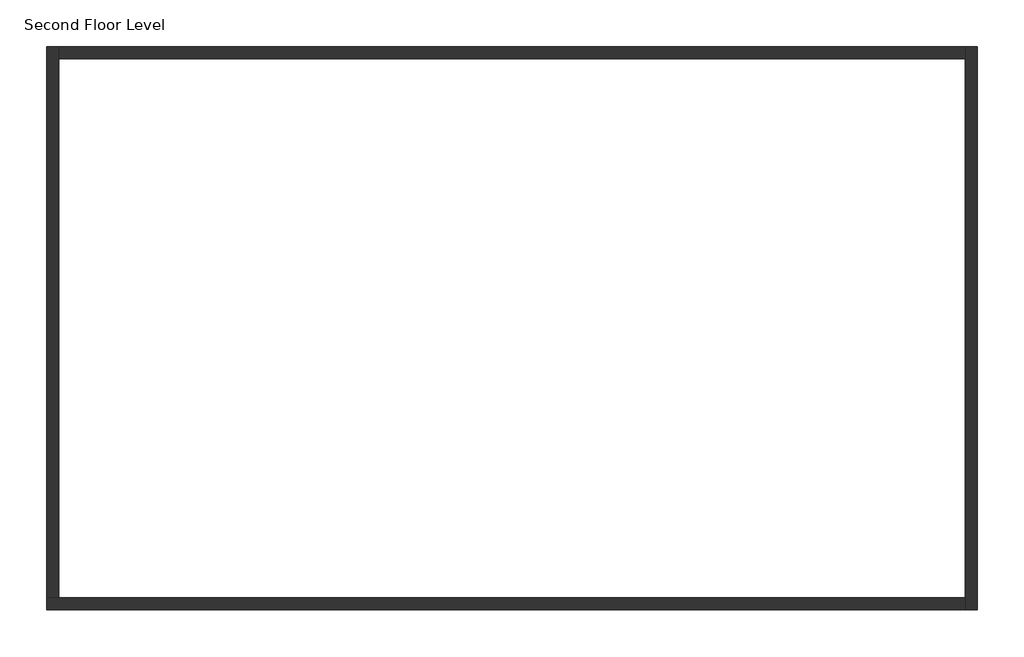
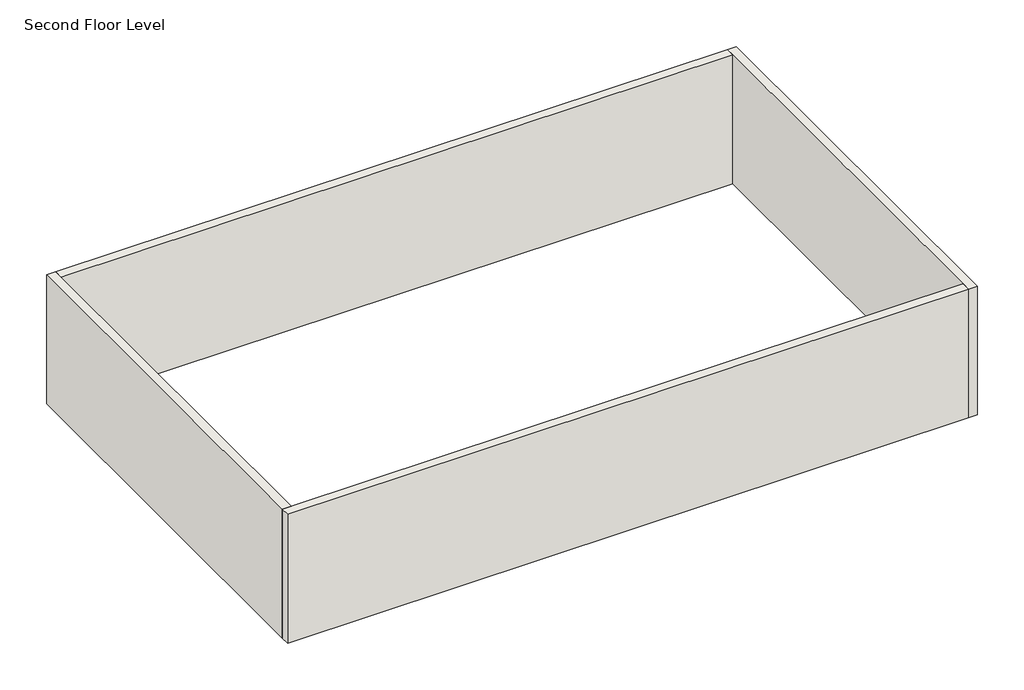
# One storey: 4 walls.
"""IFC4 building model written with IfcOpenShell, lengths in millimetres."""

from ifc_helpers import new_model, si_unit, frame, origin, place, context, project, spatial, polyline, outline, extrude, faceted_brep, element, save

model = new_model("IFC4")

# Units and contexts
model_context = context("Model", 3, world=origin())
ifc_project = project(units=[si_unit("LENGTHUNIT", "METRE", prefix="MILLI")], contexts=[model_context])

# Site, building, storey
site = spatial("IfcSite", under=ifc_project)
building = spatial("IfcBuilding", under=site)
storey = spatial("IfcBuildingStorey", under=building, Name="Second Floor Level", Elevation=3048.0)

# Walls
placement = place(None, origin())
element("IfcWall", 1, ObjectType="Generic - 8\"", at=placement, inside=storey, context=model_context, shape_type="Brep", body=[
    faceted_brep([(-11062.1324207, -4509.9593364, 3048.0), (4177.8675793, -4509.9593364, 3048.0), (4177.8675793, -4509.9593364, 6096.0), (-11062.1324207, -4509.9593364, 6096.0), (-11062.1324207, -4306.7593364, 3048.0), (-11062.1324207, -4306.7593364, 6096.0), (-10858.9324207, -4306.7593364, 6096.0), (4177.8675793, -4306.7593364, 6096.0), (4177.8675793, -4306.7593364, 3048.0), (-10858.9324207, -4306.7593364, 3048.0)], [[[0, 1, 2, 3]], [[4, 5, 6, 7, 8, 9]], [[1, 0, 4, 9, 8]], [[3, 2, 7, 6, 5]], [[0, 3, 5, 4]], [[2, 1, 8, 7]]]),
])
element("IfcWall", 2, ObjectType="Generic - 8\"", at=placement, inside=storey, context=model_context, shape_type="Brep", body=[
    faceted_brep([(-11062.1324207, 4837.2406636, 3048.0), (-11062.1324207, -4306.7593364, 3048.0), (-11062.1324207, -4306.7593364, 6096.0), (-11062.1324207, 4837.2406636, 6096.0), (-10858.9324207, 4837.2406636, 3048.0), (-10858.9324207, 4837.2406636, 6096.0), (-10858.9324207, 4634.0406636, 6096.0), (-10858.9324207, -4306.7593364, 6096.0), (-10858.9324207, -4306.7593364, 3048.0), (-10858.9324207, 4634.0406636, 3048.0)], [[[0, 1, 2, 3]], [[4, 5, 6, 7, 8, 9]], [[1, 0, 4, 9, 8]], [[3, 2, 7, 6, 5]], [[0, 3, 5, 4]], [[2, 1, 8, 7]]]),
])
element("IfcWall", 3, ObjectType="Generic - 8\"", at=placement, inside=storey, context=model_context, shape_type="SweptSolid", body=[
    extrude(outline(polyline([(-10858.9324207, 4837.2406636), (4177.8675793, 4837.2406636), (4177.8675793, 4634.0406636), (-10858.9324207, 4634.0406636), (-10858.9324207, 4837.2406636)])), frame((0.0, 0.0, 3048.0), z_axis=(0.0, 0.0, 1.0), x_axis=(1.0, 0.0, 0.0)), (0.0, 0.0, 1.0), 3048.0),
])
element("IfcWall", 4, ObjectType="Generic - 8\"", at=placement, inside=storey, context=model_context, shape_type="Brep", body=[
    faceted_brep([(4381.0675793, -4509.9593364, 3048.0), (4381.0675793, 4837.2406636, 3048.0), (4381.0675793, 4837.2406636, 6096.0), (4381.0675793, -4509.9593364, 6096.0), (4177.8675793, -4509.9593364, 3048.0), (4177.8675793, -4509.9593364, 6096.0), (4177.8675793, -4306.7593364, 6096.0), (4177.8675793, 4634.0406636, 6096.0), (4177.8675793, 4837.2406636, 6096.0), (4177.8675793, 4837.2406636, 3048.0), (4177.8675793, 4634.0406636, 3048.0), (4177.8675793, -4306.7593364, 3048.0)], [[[0, 1, 2, 3]], [[4, 5, 6, 7, 8, 9, 10, 11]], [[1, 0, 4, 11, 10, 9]], [[3, 2, 8, 7, 6, 5]], [[0, 3, 5, 4]], [[2, 1, 9, 8]]]),
])

save(model, "model.ifc")
